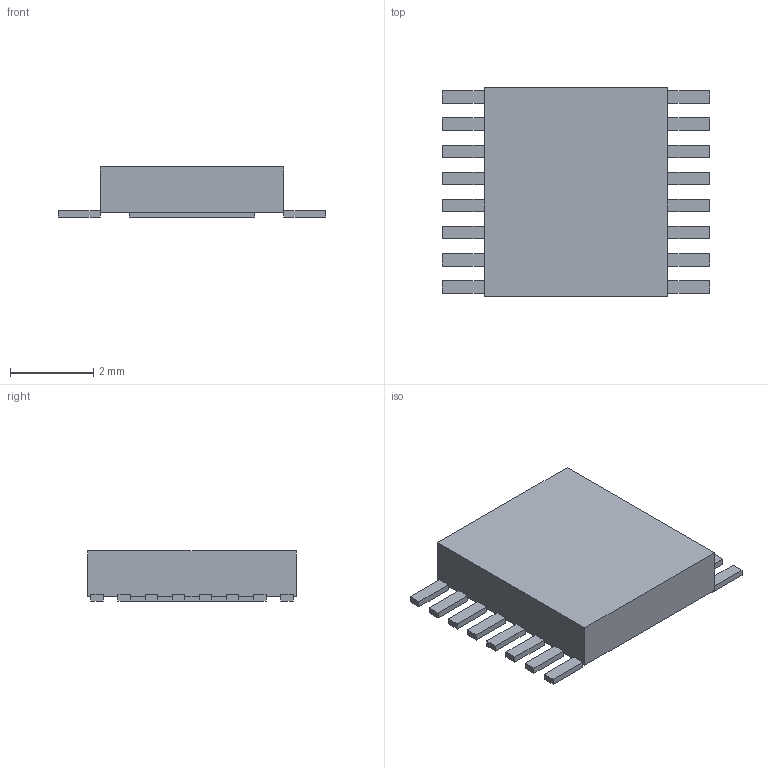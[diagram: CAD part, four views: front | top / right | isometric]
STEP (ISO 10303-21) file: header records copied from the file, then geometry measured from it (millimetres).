
FILE_DESCRIPTION(('FreeCAD Model'),'2;1');
FILE_NAME('Open CASCADE Shape Model','2026-10-15T16:03:42',('FreeCAD'),( 'FreeCAD'),'Open CASCADE STEP processor 7.9','FreeCAD','Unknown');
FILE_SCHEMA(('AUTOMOTIVE_DESIGN { 1 0 10303 214 1 1 1 1 }'));
Length unit declared in the file: millimetre
Products named in the file (1): Open CASCADE STEP translator 7.9 4
Bounding box: 6.4 x 5 x 1.2 mm (x, y, z)
Volume: 25.8 mm3; surface area: 99.7 mm2
Topology: 18 solids, 18 shells, 108 faces, 216 edges, 144 vertices
Faces by surface type: plane 108
Entity records: 2716 total; most frequent: CARTESIAN_POINT 469, DIRECTION 434, ORIENTED_EDGE 432, EDGE_CURVE 216, LINE 216, VECTOR 216, VERTEX_POINT 144, AXIS2_PLACEMENT_3D 109
